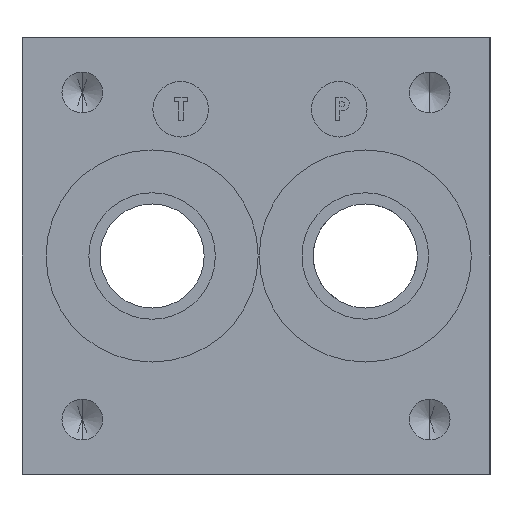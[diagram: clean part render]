
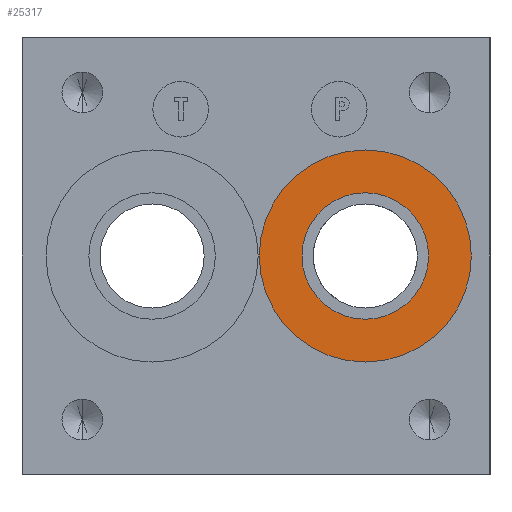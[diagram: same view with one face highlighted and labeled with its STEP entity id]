
A CAD part, left-side view. The second image highlights one B-rep face of the part: STEP entity #25317.
In plain terms, the highlighted planar face has unit normal (-1, 0, 0).
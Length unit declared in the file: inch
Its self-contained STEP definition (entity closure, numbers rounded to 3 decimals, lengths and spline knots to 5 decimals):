
#52 = CIRCLE ( 'NONE', #1841, 0.6684 ) ;
#374 = CARTESIAN_POINT ( 'NONE',  ( 0.031, 0.786, 1.375 ) ) ;
#1629 = DIRECTION ( 'NONE',  ( 0., 0., 1. ) ) ;
#1794 = DIRECTION ( 'NONE',  ( 0., 0., 1. ) ) ;
#1841 = AXIS2_PLACEMENT_3D ( 'NONE', #12446, #10795, #9955 ) ;
#2495 = EDGE_LOOP ( 'NONE', ( #25808, #18837 ) ) ;
#3465 = AXIS2_PLACEMENT_3D ( 'NONE', #15556, #15513, #15481 ) ;
#3931 = VERTEX_POINT ( 'NONE', #23658 ) ;
#6194 = EDGE_CURVE ( 'NONE', #7739, #28804, #32368, .T. ) ;
#7093 = EDGE_CURVE ( 'NONE', #3931, #16481, #52, .T. ) ;
#7719 = CARTESIAN_POINT ( 'NONE',  ( 0.031, 0.786, 1.77385 ) ) ;
#7739 = VERTEX_POINT ( 'NONE', #12836 ) ;
#8090 = AXIS2_PLACEMENT_3D ( 'NONE', #31712, #16964, #1629 ) ;
#8151 = DIRECTION ( 'NONE',  ( 0., 0., -1. ) ) ;
#8482 = ORIENTED_EDGE ( 'NONE', *, *, #7093, .T. ) ;
#8858 = CARTESIAN_POINT ( 'NONE',  ( 0.031, 0.786, 2.0434 ) ) ;
#9955 = DIRECTION ( 'NONE',  ( 0., 0., 1. ) ) ;
#10164 = AXIS2_PLACEMENT_3D ( 'NONE', #374, #23395, #8151 ) ;
#10795 = DIRECTION ( 'NONE',  ( -1., 0., 0. ) ) ;
#10861 = FACE_OUTER_BOUND ( 'NONE', #24356, .T. ) ;
#12446 = CARTESIAN_POINT ( 'NONE',  ( 0.031, 0.786, 1.375 ) ) ;
#12836 = CARTESIAN_POINT ( 'NONE',  ( 0.031, 0.786, 0.97615 ) ) ;
#13045 = CIRCLE ( 'NONE', #8090, 0.6684 ) ;
#15481 = DIRECTION ( 'NONE',  ( 0., 0., 1. ) ) ;
#15513 = DIRECTION ( 'NONE',  ( -1., 0., 0. ) ) ;
#15556 = CARTESIAN_POINT ( 'NONE',  ( 0.031, 0.786, 1.375 ) ) ;
#16481 = VERTEX_POINT ( 'NONE', #8858 ) ;
#16964 = DIRECTION ( 'NONE',  ( -1., 0., 0. ) ) ;
#17106 = DIRECTION ( 'NONE',  ( -1., 0., 0. ) ) ;
#17651 = FACE_BOUND ( 'NONE', #2495, .T. ) ;
#18837 = ORIENTED_EDGE ( 'NONE', *, *, #6194, .F. ) ;
#21957 = EDGE_CURVE ( 'NONE', #28804, #7739, #27488, .T. ) ;
#22377 = EDGE_CURVE ( 'NONE', #16481, #3931, #13045, .T. ) ;
#23395 = DIRECTION ( 'NONE',  ( 1., 0., 0. ) ) ;
#23658 = CARTESIAN_POINT ( 'NONE',  ( 0.031, 0.786, 0.7066 ) ) ;
#24356 = EDGE_LOOP ( 'NONE', ( #28876, #8482 ) ) ;
#25317 = ADVANCED_FACE ( 'NONE', ( #17651, #10861 ), #28122, .F. ) ;
#25808 = ORIENTED_EDGE ( 'NONE', *, *, #21957, .F. ) ;
#27488 = CIRCLE ( 'NONE', #30525, 0.39885 ) ;
#28122 = PLANE ( 'NONE',  #10164 ) ;
#28804 = VERTEX_POINT ( 'NONE', #7719 ) ;
#28876 = ORIENTED_EDGE ( 'NONE', *, *, #22377, .T. ) ;
#30525 = AXIS2_PLACEMENT_3D ( 'NONE', #31835, #17106, #1794 ) ;
#31712 = CARTESIAN_POINT ( 'NONE',  ( 0.031, 0.786, 1.375 ) ) ;
#31835 = CARTESIAN_POINT ( 'NONE',  ( 0.031, 0.786, 1.375 ) ) ;
#32368 = CIRCLE ( 'NONE', #3465, 0.39885 ) ;
